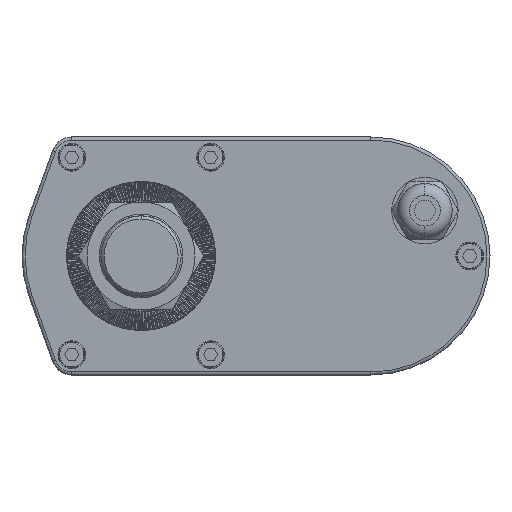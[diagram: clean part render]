
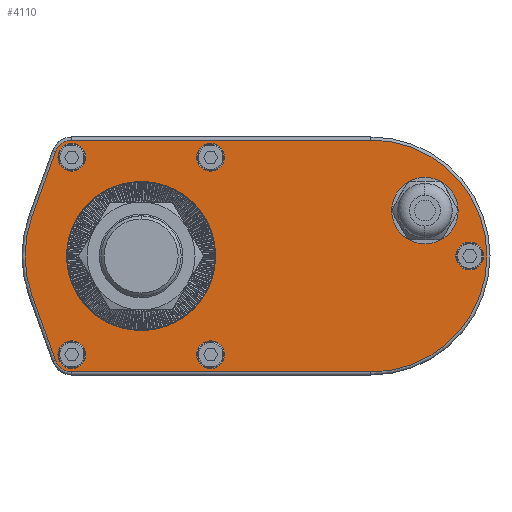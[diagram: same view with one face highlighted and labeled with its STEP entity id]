
A CAD part, left-side view. The second image highlights one B-rep face of the part: STEP entity #4110.
In plain terms, the highlighted planar face has unit normal (-1, 0, 0).
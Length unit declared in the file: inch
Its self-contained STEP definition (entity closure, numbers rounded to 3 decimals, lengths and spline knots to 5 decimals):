
#4110=ADVANCED_FACE('',(#8734,#8735,#8736,#8737,#8738,#8739,#8740,#8741),#8742,.F.);
#8734=FACE_BOUND('',#14173,.T.);
#8735=FACE_BOUND('',#14174,.T.);
#8736=FACE_BOUND('',#14175,.T.);
#8737=FACE_BOUND('',#14176,.T.);
#8738=FACE_BOUND('',#14177,.T.);
#8739=FACE_BOUND('',#14178,.T.);
#8740=FACE_BOUND('',#14179,.T.);
#8741=FACE_OUTER_BOUND('',#14180,.T.);
#8742=PLANE('',#14181);
#14173=EDGE_LOOP('',(#26428,#26429));
#14174=EDGE_LOOP('',(#26430,#26431));
#14175=EDGE_LOOP('',(#26432,#26433));
#14176=EDGE_LOOP('',(#26434,#26435));
#14177=EDGE_LOOP('',(#26436,#26437));
#14178=EDGE_LOOP('',(#26438,#26439));
#14179=EDGE_LOOP('',(#26440,#26441));
#14180=EDGE_LOOP('',(#26442,#26443,#26444,#26445,#26446,#26447,#26448,#26449));
#14181=AXIS2_PLACEMENT_3D('',#26450,#26451,#26452);
#26428=ORIENTED_EDGE('',*,*,#35038,.F.);
#26429=ORIENTED_EDGE('',*,*,#34579,.F.);
#26430=ORIENTED_EDGE('',*,*,#35243,.F.);
#26431=ORIENTED_EDGE('',*,*,#31556,.F.);
#26432=ORIENTED_EDGE('',*,*,#33564,.T.);
#26433=ORIENTED_EDGE('',*,*,#35339,.T.);
#26434=ORIENTED_EDGE('',*,*,#34776,.T.);
#26435=ORIENTED_EDGE('',*,*,#33584,.T.);
#26436=ORIENTED_EDGE('',*,*,#35629,.T.);
#26437=ORIENTED_EDGE('',*,*,#31835,.T.);
#26438=ORIENTED_EDGE('',*,*,#33595,.T.);
#26439=ORIENTED_EDGE('',*,*,#35630,.T.);
#26440=ORIENTED_EDGE('',*,*,#33680,.T.);
#26441=ORIENTED_EDGE('',*,*,#32060,.T.);
#26442=ORIENTED_EDGE('',*,*,#32407,.T.);
#26443=ORIENTED_EDGE('',*,*,#35631,.T.);
#26444=ORIENTED_EDGE('',*,*,#33310,.T.);
#26445=ORIENTED_EDGE('',*,*,#33855,.T.);
#26446=ORIENTED_EDGE('',*,*,#35369,.T.);
#26447=ORIENTED_EDGE('',*,*,#32748,.T.);
#26448=ORIENTED_EDGE('',*,*,#34200,.T.);
#26449=ORIENTED_EDGE('',*,*,#35632,.T.);
#26450=CARTESIAN_POINT('',(0.0,-2.93307,0.0));
#26451=DIRECTION('',(1.0,0.0,0.0));
#26452=DIRECTION('',(0.0,1.0,-0.0));
#31556=EDGE_CURVE('',#38016,#37610,#38018,.F.);
#31835=EDGE_CURVE('',#38477,#38475,#38478,.T.);
#32060=EDGE_CURVE('',#38858,#38856,#38859,.T.);
#32407=EDGE_CURVE('',#39397,#39402,#39404,.F.);
#32748=EDGE_CURVE('',#39946,#39944,#39947,.F.);
#33310=EDGE_CURVE('',#40782,#40780,#40783,.F.);
#33564=EDGE_CURVE('',#41146,#41148,#41150,.T.);
#33584=EDGE_CURVE('',#41177,#41175,#41178,.T.);
#33595=EDGE_CURVE('',#41190,#41194,#41196,.T.);
#33680=EDGE_CURVE('',#38856,#38858,#41316,.T.);
#33855=EDGE_CURVE('',#40780,#41560,#41562,.F.);
#34200=EDGE_CURVE('',#39944,#42026,#42028,.F.);
#34579=EDGE_CURVE('',#42509,#42505,#42511,.F.);
#34776=EDGE_CURVE('',#41175,#41177,#42751,.T.);
#35038=EDGE_CURVE('',#42505,#42509,#43075,.F.);
#35243=EDGE_CURVE('',#37610,#38016,#43318,.F.);
#35339=EDGE_CURVE('',#41148,#41146,#43443,.T.);
#35369=EDGE_CURVE('',#41560,#39946,#43478,.F.);
#35629=EDGE_CURVE('',#38475,#38477,#43773,.T.);
#35630=EDGE_CURVE('',#41194,#41190,#43774,.T.);
#35631=EDGE_CURVE('',#39402,#40782,#43775,.F.);
#35632=EDGE_CURVE('',#42026,#39397,#43776,.F.);
#37610=VERTEX_POINT('',#46189);
#38016=VERTEX_POINT('',#46596);
#38018=CIRCLE('',#46599,0.94882);
#38475=VERTEX_POINT('',#47198);
#38477=VERTEX_POINT('',#47201);
#38478=CIRCLE('',#47202,0.17717);
#38856=VERTEX_POINT('',#47708);
#38858=VERTEX_POINT('',#47711);
#38859=CIRCLE('',#47712,0.17717);
#39397=VERTEX_POINT('',#48493);
#39402=VERTEX_POINT('',#48498);
#39404=CIRCLE('',#48500,1.48031);
#39944=VERTEX_POINT('',#49242);
#39946=VERTEX_POINT('',#49244);
#39947=LINE('',#49245,#49246);
#40780=VERTEX_POINT('',#50419);
#40782=VERTEX_POINT('',#50421);
#40783=CIRCLE('',#50422,0.22047);
#41146=VERTEX_POINT('',#50941);
#41148=VERTEX_POINT('',#50944);
#41150=CIRCLE('',#50947,0.17717);
#41175=VERTEX_POINT('',#50979);
#41177=VERTEX_POINT('',#50982);
#41178=CIRCLE('',#50983,0.17717);
#41190=VERTEX_POINT('',#50999);
#41194=VERTEX_POINT('',#51004);
#41196=CIRCLE('',#51007,0.17717);
#41316=CIRCLE('',#51181,0.17717);
#41560=VERTEX_POINT('',#51528);
#41562=LINE('',#51530,#51531);
#42026=VERTEX_POINT('',#52170);
#42028=CIRCLE('',#52172,0.22047);
#42505=VERTEX_POINT('',#52857);
#42509=VERTEX_POINT('',#52862);
#42511=CIRCLE('',#52865,0.3248);
#42751=CIRCLE('',#53209,0.17717);
#43075=CIRCLE('',#53670,0.3248);
#43318=CIRCLE('',#54021,0.94882);
#43443=CIRCLE('',#54147,0.17717);
#43478=CIRCLE('',#54195,1.48031);
#43773=CIRCLE('',#54609,0.17717);
#43774=CIRCLE('',#54610,0.17717);
#43775=LINE('',#54611,#54612);
#43776=LINE('',#54613,#54614);
#46189=CARTESIAN_POINT('',(0.0,0.0,-0.94882));
#46596=CARTESIAN_POINT('',(0.0,0.,0.94882));
#46599=AXIS2_PLACEMENT_3D('',#57252,#57253,#57254);
#47198=CARTESIAN_POINT('',(0.0,-0.8874,-1.43701));
#47201=CARTESIAN_POINT('',(0.0,-0.8874,-1.08268));
#47202=AXIS2_PLACEMENT_3D('',#57662,#57663,#57664);
#47708=CARTESIAN_POINT('',(0.0,0.88425,-1.43701));
#47711=CARTESIAN_POINT('',(0.0,0.88425,-1.08268));
#47712=AXIS2_PLACEMENT_3D('',#57980,#57981,#57982);
#48493=CARTESIAN_POINT('',(0.0,1.39217,0.50319));
#48498=CARTESIAN_POINT('',(0.0,1.39217,-0.50319));
#48500=AXIS2_PLACEMENT_3D('',#58339,#58340,#58341);
#49242=CARTESIAN_POINT('',(0.0,0.88425,1.48031));
#49244=CARTESIAN_POINT('',(0.0,-2.93307,1.48031));
#49245=CARTESIAN_POINT('',(0.0,0.88425,1.48031));
#49246=VECTOR('',#58749,39.37008);
#50419=CARTESIAN_POINT('',(0.0,0.88425,-1.48031));
#50421=CARTESIAN_POINT('',(0.0,1.0916,-1.33479));
#50422=AXIS2_PLACEMENT_3D('',#59378,#59379,#59380);
#50941=CARTESIAN_POINT('',(0.0,-4.19449,-0.17717));
#50944=CARTESIAN_POINT('',(0.0,-4.19449,0.17717));
#50947=AXIS2_PLACEMENT_3D('',#59656,#59657,#59658);
#50979=CARTESIAN_POINT('',(0.0,0.88425,1.08268));
#50982=CARTESIAN_POINT('',(0.0,0.88425,1.43701));
#50983=AXIS2_PLACEMENT_3D('',#59682,#59683,#59684);
#50999=CARTESIAN_POINT('',(0.0,-0.8874,1.08268));
#51004=CARTESIAN_POINT('',(0.0,-0.8874,1.43701));
#51007=AXIS2_PLACEMENT_3D('',#59697,#59698,#59699);
#51181=AXIS2_PLACEMENT_3D('',#59786,#59787,#59788);
#51528=CARTESIAN_POINT('',(0.0,-2.93307,-1.48031));
#51530=CARTESIAN_POINT('',(0.0,-2.93307,-1.48031));
#51531=VECTOR('',#59987,39.37008);
#52170=CARTESIAN_POINT('',(0.0,1.0916,1.33479));
#52172=AXIS2_PLACEMENT_3D('',#60379,#60380,#60381);
#52857=CARTESIAN_POINT('',(0.0,-3.62205,0.25394));
#52862=CARTESIAN_POINT('',(0.0,-3.62205,0.90354));
#52865=AXIS2_PLACEMENT_3D('',#60847,#60848,#60849);
#53209=AXIS2_PLACEMENT_3D('',#61035,#61036,#61037);
#53670=AXIS2_PLACEMENT_3D('',#61280,#61281,#61282);
#54021=AXIS2_PLACEMENT_3D('',#61483,#61484,#61485);
#54147=AXIS2_PLACEMENT_3D('',#61757,#61758,#61759);
#54195=AXIS2_PLACEMENT_3D('',#61782,#61783,#61784);
#54609=AXIS2_PLACEMENT_3D('',#62030,#62031,#62032);
#54610=AXIS2_PLACEMENT_3D('',#62033,#62034,#62035);
#54611=CARTESIAN_POINT('',(0.0,1.0916,-1.33479));
#54612=VECTOR('',#62036,39.37008);
#54613=CARTESIAN_POINT('',(0.0,1.39217,0.50319));
#54614=VECTOR('',#62037,39.37008);
#57252=CARTESIAN_POINT('',(0.0,0.0,0.0));
#57253=DIRECTION('',(1.0,0.0,0.0));
#57254=DIRECTION('',(0.0,0.0,-1.0));
#57662=CARTESIAN_POINT('',(0.0,-0.8874,-1.25984));
#57663=DIRECTION('',(1.0,0.0,0.0));
#57664=DIRECTION('',(0.0,0.0,-1.0));
#57980=CARTESIAN_POINT('',(0.0,0.88425,-1.25984));
#57981=DIRECTION('',(1.0,0.0,0.0));
#57982=DIRECTION('',(0.0,0.0,-1.0));
#58339=CARTESIAN_POINT('',(0.0,0.,0.0));
#58340=DIRECTION('',(1.0,0.0,0.0));
#58341=DIRECTION('',(0.0,0.0,-1.0));
#58749=DIRECTION('',(0.0,-1.0,0.0));
#59378=CARTESIAN_POINT('',(0.0,0.88425,-1.25984));
#59379=DIRECTION('',(1.0,0.0,0.0));
#59380=DIRECTION('',(0.0,0.0,-1.0));
#59656=CARTESIAN_POINT('',(0.0,-4.19449,0.0));
#59657=DIRECTION('',(1.0,0.0,0.0));
#59658=DIRECTION('',(0.0,0.0,-1.0));
#59682=CARTESIAN_POINT('',(0.0,0.88425,1.25984));
#59683=DIRECTION('',(1.0,0.0,0.0));
#59684=DIRECTION('',(0.0,0.0,-1.0));
#59697=CARTESIAN_POINT('',(0.0,-0.8874,1.25984));
#59698=DIRECTION('',(1.0,0.0,0.0));
#59699=DIRECTION('',(0.0,0.0,-1.0));
#59786=CARTESIAN_POINT('',(0.0,0.88425,-1.25984));
#59787=DIRECTION('',(1.0,0.0,0.0));
#59788=DIRECTION('',(0.0,0.0,-1.0));
#59987=DIRECTION('',(0.0,1.0,0.0));
#60379=CARTESIAN_POINT('',(0.0,0.88425,1.25984));
#60380=DIRECTION('',(1.0,0.0,0.0));
#60381=DIRECTION('',(0.0,0.0,-1.0));
#60847=CARTESIAN_POINT('',(0.0,-3.62205,0.57874));
#60848=DIRECTION('',(1.0,0.0,0.0));
#60849=DIRECTION('',(0.0,0.0,-1.0));
#61035=CARTESIAN_POINT('',(0.0,0.88425,1.25984));
#61036=DIRECTION('',(1.0,0.0,0.0));
#61037=DIRECTION('',(0.0,0.0,-1.0));
#61280=CARTESIAN_POINT('',(0.0,-3.62205,0.57874));
#61281=DIRECTION('',(1.0,0.0,0.0));
#61282=DIRECTION('',(0.0,0.0,-1.0));
#61483=CARTESIAN_POINT('',(0.0,0.0,0.0));
#61484=DIRECTION('',(1.0,0.0,0.0));
#61485=DIRECTION('',(0.0,0.0,-1.0));
#61757=CARTESIAN_POINT('',(0.0,-4.19449,0.0));
#61758=DIRECTION('',(1.0,0.0,0.0));
#61759=DIRECTION('',(0.0,0.0,-1.0));
#61782=CARTESIAN_POINT('',(0.0,-2.93307,0.0));
#61783=DIRECTION('',(1.0,0.0,0.0));
#61784=DIRECTION('',(0.0,0.0,-1.0));
#62030=CARTESIAN_POINT('',(0.0,-0.8874,-1.25984));
#62031=DIRECTION('',(1.0,0.0,0.0));
#62032=DIRECTION('',(0.0,0.0,-1.0));
#62033=CARTESIAN_POINT('',(0.0,-0.8874,1.25984));
#62034=DIRECTION('',(1.0,0.0,0.0));
#62035=DIRECTION('',(0.0,0.0,-1.0));
#62036=DIRECTION('',(0.0,0.34,0.94));
#62037=DIRECTION('',(0.0,-0.34,0.94));
